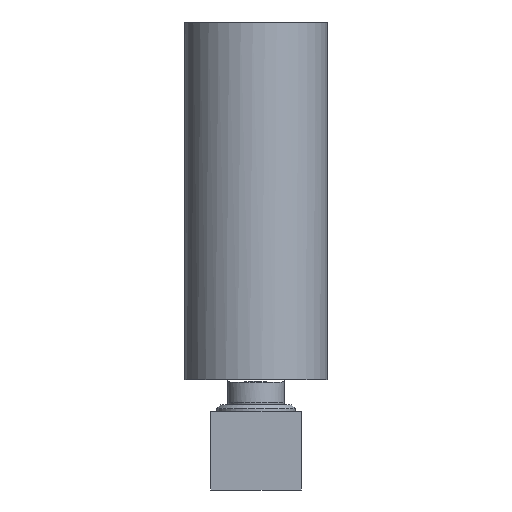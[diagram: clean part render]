
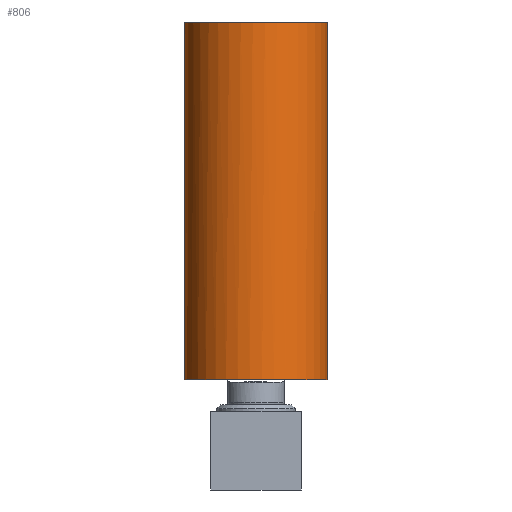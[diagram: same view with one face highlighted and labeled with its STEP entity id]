
A CAD part, front view. The second image highlights one B-rep face of the part: STEP entity #806.
In plain terms, the highlighted cylindrical face has radius 10 mm (diameter 20 mm), a full revolution.
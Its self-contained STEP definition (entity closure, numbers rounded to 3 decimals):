
#43=ELLIPSE('',#2069,578.832,10.);
#44=ELLIPSE('',#2071,578.832,10.);
#68=B_SPLINE_CURVE_WITH_KNOTS('',3,(#2787,#2788,#2789,#2790,#2791,#2792),
 .UNSPECIFIED.,.F.,.F.,(4,2,4),(0.,0.5,1.),.UNSPECIFIED.);
#69=B_SPLINE_CURVE_WITH_KNOTS('',3,(#2794,#2795,#2796,#2797),
 .UNSPECIFIED.,.F.,.F.,(4,4),(0.,1.),.UNSPECIFIED.);
#70=B_SPLINE_CURVE_WITH_KNOTS('',3,(#2799,#2800,#2801,#2802,#2803,#2804),
 .UNSPECIFIED.,.F.,.F.,(4,2,4),(0.,0.5,1.),.UNSPECIFIED.);
#111=CYLINDRICAL_SURFACE('',#2072,10.);
#134=FACE_BOUND('',#942,.T.);
#135=FACE_BOUND('',#943,.T.);
#171=CIRCLE('',#2068,10.);
#172=CIRCLE('',#2070,10.);
#806=ADVANCED_FACE('',(#134,#135),#111,.T.);
#942=EDGE_LOOP('',(#1045));
#943=EDGE_LOOP('',(#1046,#1047,#1048,#1049,#1050,#1051));
#1045=ORIENTED_EDGE('',*,*,#1581,.T.);
#1046=ORIENTED_EDGE('',*,*,#1582,.T.);
#1047=ORIENTED_EDGE('',*,*,#1583,.T.);
#1048=ORIENTED_EDGE('',*,*,#1584,.T.);
#1049=ORIENTED_EDGE('',*,*,#1585,.T.);
#1050=ORIENTED_EDGE('',*,*,#1586,.T.);
#1051=ORIENTED_EDGE('',*,*,#1587,.T.);
#1313=VERTEX_POINT('',#2779);
#1314=VERTEX_POINT('',#2781);
#1315=VERTEX_POINT('',#2782);
#1316=VERTEX_POINT('',#2784);
#1317=VERTEX_POINT('',#2786);
#1318=VERTEX_POINT('',#2793);
#1319=VERTEX_POINT('',#2798);
#1581=EDGE_CURVE('',#1313,#1313,#171,.T.);
#1582=EDGE_CURVE('',#1314,#1315,#43,.T.);
#1583=EDGE_CURVE('',#1315,#1316,#172,.T.);
#1584=EDGE_CURVE('',#1316,#1317,#44,.T.);
#1585=EDGE_CURVE('',#1317,#1318,#68,.T.);
#1586=EDGE_CURVE('',#1318,#1319,#69,.T.);
#1587=EDGE_CURVE('',#1319,#1314,#70,.T.);
#2068=AXIS2_PLACEMENT_3D('',#2778,#2281,#2282);
#2069=AXIS2_PLACEMENT_3D('',#2780,#2283,#2284);
#2070=AXIS2_PLACEMENT_3D('',#2783,#2285,#2286);
#2071=AXIS2_PLACEMENT_3D('',#2785,#2287,#2288);
#2072=AXIS2_PLACEMENT_3D('',#2805,#2289,#2290);
#2281=DIRECTION('',(0.,0.,-1.));
#2282=DIRECTION('',(-1.,0.,0.));
#2283=DIRECTION('',(-1.,0.017,0.017));
#2284=DIRECTION('',(0.017,0.,1.));
#2285=DIRECTION('',(0.,0.,1.));
#2286=DIRECTION('',(-1.,0.,0.));
#2287=DIRECTION('',(1.,0.017,0.017));
#2288=DIRECTION('',(-0.017,0.,1.));
#2289=DIRECTION('',(0.,0.,1.));
#2290=DIRECTION('',(1.,0.,0.));
#2778=CARTESIAN_POINT('',(-173.078,-1282.7,142.948));
#2779=CARTESIAN_POINT('',(-183.078,-1282.7,142.948));
#2780=CARTESIAN_POINT('',(-173.078,-1282.7,368.19));
#2781=CARTESIAN_POINT('',(-177.243,-1273.609,118.082));
#2782=CARTESIAN_POINT('',(-177.681,-1273.822,92.948));
#2783=CARTESIAN_POINT('',(-173.078,-1282.7,92.948));
#2784=CARTESIAN_POINT('',(-168.475,-1273.822,92.948));
#2785=CARTESIAN_POINT('',(-173.078,-1282.7,368.19));
#2786=CARTESIAN_POINT('',(-168.913,-1273.609,118.082));
#2787=CARTESIAN_POINT('',(-168.913,-1273.609,118.082));
#2788=CARTESIAN_POINT('',(-168.92,-1273.605,118.484));
#2789=CARTESIAN_POINT('',(-168.97,-1273.58,118.766));
#2790=CARTESIAN_POINT('',(-169.361,-1273.414,119.428));
#2791=CARTESIAN_POINT('',(-169.632,-1273.305,119.611));
#2792=CARTESIAN_POINT('',(-169.984,-1273.191,119.645));
#2793=CARTESIAN_POINT('',(-169.984,-1273.191,119.645));
#2794=CARTESIAN_POINT('',(-169.984,-1273.191,119.645));
#2795=CARTESIAN_POINT('',(-171.978,-1272.542,119.837));
#2796=CARTESIAN_POINT('',(-174.178,-1272.542,119.837));
#2797=CARTESIAN_POINT('',(-176.172,-1273.191,119.645));
#2798=CARTESIAN_POINT('',(-176.172,-1273.191,119.645));
#2799=CARTESIAN_POINT('',(-176.172,-1273.191,119.645));
#2800=CARTESIAN_POINT('',(-176.523,-1273.305,119.611));
#2801=CARTESIAN_POINT('',(-176.828,-1273.428,119.372));
#2802=CARTESIAN_POINT('',(-177.153,-1273.566,118.824));
#2803=CARTESIAN_POINT('',(-177.236,-1273.605,118.485));
#2804=CARTESIAN_POINT('',(-177.243,-1273.609,118.082));
#2805=CARTESIAN_POINT('',(-173.078,-1282.7,145.948));
